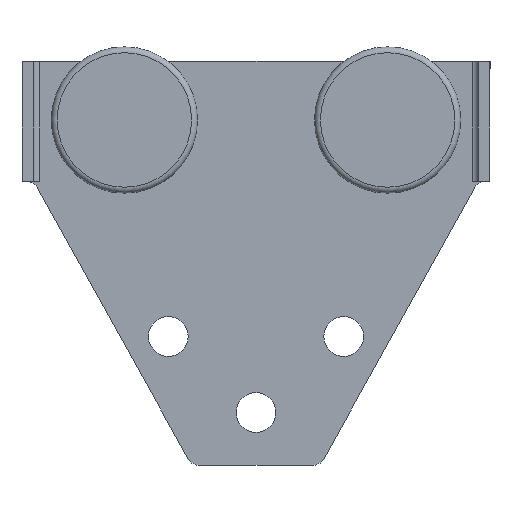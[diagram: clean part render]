
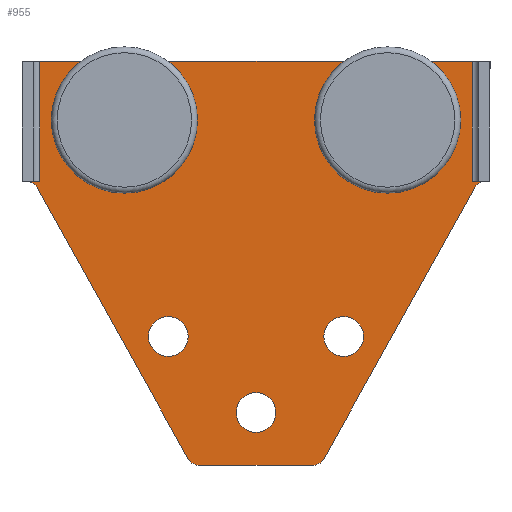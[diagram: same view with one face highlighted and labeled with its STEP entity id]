
A CAD part, left-side view. The second image highlights one B-rep face of the part: STEP entity #955.
In plain terms, the highlighted free-form (B-spline) face has degree [1, 1] with [2, 2] control points.
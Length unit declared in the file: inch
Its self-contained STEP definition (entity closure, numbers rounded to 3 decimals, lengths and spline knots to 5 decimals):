
#237=CARTESIAN_POINT('',(-0.15748,-0.34156,2.32283));
#238=VERTEX_POINT('',#237);
#239=CARTESIAN_POINT('',(-0.15748,-0.49904,2.32283));
#240=DIRECTION('',(-1.0,0.0,0.0));
#241=DIRECTION('',(0.0,1.0,0.0));
#242=AXIS2_PLACEMENT_3D('',#239,#240,#241);
#243=CIRCLE('',#242,0.15748);
#244=EDGE_CURVE('',#238,#238,#243,.T.);
#372=CARTESIAN_POINT('',(-0.15748,1.84348,2.71653));
#373=VERTEX_POINT('',#372);
#374=CARTESIAN_POINT('',(-0.15748,1.84348,1.90945));
#375=VERTEX_POINT('',#374);
#376=CARTESIAN_POINT('',(-0.15748,1.84348,2.71653));
#377=DIRECTION('',(0.0,0.0,-1.0));
#378=VECTOR('',#377,0.80708);
#379=LINE('',#376,#378);
#380=EDGE_CURVE('',#373,#375,#379,.T.);
#466=CARTESIAN_POINT('',(-0.15748,-1.0699,1.90945));
#467=VERTEX_POINT('',#466);
#468=CARTESIAN_POINT('',(-0.15748,-1.0699,2.71653));
#469=VERTEX_POINT('',#468);
#470=CARTESIAN_POINT('',(-0.15748,-1.0699,1.90945));
#471=DIRECTION('',(0.0,0.0,1.0));
#472=VECTOR('',#471,0.80709);
#473=LINE('',#470,#472);
#474=EDGE_CURVE('',#467,#469,#473,.T.);
#658=CARTESIAN_POINT('',(-0.15748,-1.15556,1.90945));
#659=VERTEX_POINT('',#658);
#660=CARTESIAN_POINT('',(-0.15748,-1.0699,1.90945));
#661=DIRECTION('',(0.0,-1.0,0.0));
#662=VECTOR('',#661,0.08565);
#663=LINE('',#660,#662);
#664=EDGE_CURVE('',#467,#659,#663,.T.);
#759=CARTESIAN_POINT('',(-0.15748,1.92913,1.90945));
#760=VERTEX_POINT('',#759);
#767=CARTESIAN_POINT('',(-0.15748,1.92913,1.90945));
#768=DIRECTION('',(0.0,-1.0,0.0));
#769=VECTOR('',#768,0.08565);
#770=LINE('',#767,#769);
#771=EDGE_CURVE('',#760,#375,#770,.T.);
#833=CARTESIAN_POINT('',(-0.15748,1.92913,2.71653));
#834=CARTESIAN_POINT('',(-0.15748,-1.15556,2.71653));
#835=CARTESIAN_POINT('',(-0.15748,1.92913,0.0));
#836=CARTESIAN_POINT('',(-0.15748,-1.15556,0.));
#837=B_SPLINE_SURFACE_WITH_KNOTS('',1,1,((#833,#835),(#834,#836)),.UNSPECIFIED.,.F.,.F.,.U.,(2,2),(2,2),(0.0,3.08469),(0.0,2.71653),.UNSPECIFIED.);
#838=ORIENTED_EDGE('',*,*,#380,.T.);
#839=ORIENTED_EDGE('',*,*,#771,.F.);
#840=CARTESIAN_POINT('',(-0.15748,1.86033,1.869));
#841=VERTEX_POINT('',#840);
#842=CARTESIAN_POINT('',(-0.15748,1.92913,1.83071));
#843=DIRECTION('',(1.0,0.0,0.0));
#844=DIRECTION('',(0.0,1.0,0.0));
#845=AXIS2_PLACEMENT_3D('',#842,#843,#844);
#846=CIRCLE('',#845,0.07874);
#847=EDGE_CURVE('',#760,#841,#846,.T.);
#848=ORIENTED_EDGE('',*,*,#847,.T.);
#849=CARTESIAN_POINT('',(-0.15748,0.84237,0.04044));
#850=VERTEX_POINT('',#849);
#851=CARTESIAN_POINT('',(-0.15748,1.86033,1.869));
#852=DIRECTION('',(0.,-0.486,-0.874));
#853=VECTOR('',#852,2.09282);
#854=LINE('',#851,#853);
#855=EDGE_CURVE('',#841,#850,#854,.T.);
#856=ORIENTED_EDGE('',*,*,#855,.T.);
#857=CARTESIAN_POINT('',(-0.15748,0.77357,0.0));
#858=VERTEX_POINT('',#857);
#859=CARTESIAN_POINT('',(-0.15748,0.77357,0.07874));
#860=DIRECTION('',(-1.0,0.0,0.0));
#861=DIRECTION('',(0.0,1.0,0.0));
#862=AXIS2_PLACEMENT_3D('',#859,#860,#861);
#863=CIRCLE('',#862,0.07874);
#864=EDGE_CURVE('',#850,#858,#863,.T.);
#865=ORIENTED_EDGE('',*,*,#864,.T.);
#866=CARTESIAN_POINT('',(-0.15748,0.0,0.0));
#867=VERTEX_POINT('',#866);
#868=CARTESIAN_POINT('',(-0.15748,0.77357,0.));
#869=DIRECTION('',(0.0,-1.0,0.0));
#870=VECTOR('',#869,0.77357);
#871=LINE('',#868,#870);
#872=EDGE_CURVE('',#858,#867,#871,.T.);
#873=ORIENTED_EDGE('',*,*,#872,.T.);
#874=CARTESIAN_POINT('',(-0.15748,-0.0688,0.04044));
#875=VERTEX_POINT('',#874);
#876=CARTESIAN_POINT('',(-0.15748,0.0,0.07874));
#877=DIRECTION('',(-1.0,0.0,0.0));
#878=DIRECTION('',(0.0,1.0,0.0));
#879=AXIS2_PLACEMENT_3D('',#876,#877,#878);
#880=CIRCLE('',#879,0.07874);
#881=EDGE_CURVE('',#867,#875,#880,.T.);
#882=ORIENTED_EDGE('',*,*,#881,.T.);
#883=CARTESIAN_POINT('',(-0.15748,-1.08676,1.869));
#884=VERTEX_POINT('',#883);
#885=CARTESIAN_POINT('',(-0.15748,-0.0688,0.04044));
#886=DIRECTION('',(0.,-0.486,0.874));
#887=VECTOR('',#886,2.09282);
#888=LINE('',#885,#887);
#889=EDGE_CURVE('',#875,#884,#888,.T.);
#890=ORIENTED_EDGE('',*,*,#889,.T.);
#891=CARTESIAN_POINT('',(-0.15748,-1.15556,1.83071));
#892=DIRECTION('',(1.0,0.0,0.0));
#893=DIRECTION('',(0.0,1.0,0.0));
#894=AXIS2_PLACEMENT_3D('',#891,#892,#893);
#895=CIRCLE('',#894,0.07874);
#896=EDGE_CURVE('',#884,#659,#895,.T.);
#897=ORIENTED_EDGE('',*,*,#896,.T.);
#898=ORIENTED_EDGE('',*,*,#664,.F.);
#899=ORIENTED_EDGE('',*,*,#474,.T.);
#900=CARTESIAN_POINT('',(-0.15748,-1.0699,2.71653));
#901=DIRECTION('',(0.0,1.0,0.0));
#902=VECTOR('',#901,2.91338);
#903=LINE('',#900,#902);
#904=EDGE_CURVE('',#469,#373,#903,.T.);
#905=ORIENTED_EDGE('',*,*,#904,.T.);
#906=EDGE_LOOP('',(#838,#839,#848,#856,#865,#873,#882,#890,#897,#898,#899,#905));
#907=FACE_OUTER_BOUND('',#906,.T.);
#908=CARTESIAN_POINT('',(-0.15748,1.11119,0.86614));
#909=VERTEX_POINT('',#908);
#910=CARTESIAN_POINT('',(-0.15748,0.97734,0.86614));
#911=DIRECTION('',(-1.0,0.0,0.0));
#912=DIRECTION('',(0.0,1.0,0.0));
#913=AXIS2_PLACEMENT_3D('',#910,#911,#912);
#914=CIRCLE('',#913,0.13386);
#915=EDGE_CURVE('',#909,#909,#914,.T.);
#916=ORIENTED_EDGE('',*,*,#915,.F.);
#917=EDGE_LOOP('',(#916));
#918=FACE_BOUND('',#917,.T.);
#919=CARTESIAN_POINT('',(-0.15748,0.52064,0.35433));
#920=VERTEX_POINT('',#919);
#921=CARTESIAN_POINT('',(-0.15748,0.38679,0.35433));
#922=DIRECTION('',(-1.0,0.0,0.0));
#923=DIRECTION('',(0.0,1.0,0.0));
#924=AXIS2_PLACEMENT_3D('',#921,#922,#923);
#925=CIRCLE('',#924,0.13386);
#926=EDGE_CURVE('',#920,#920,#925,.T.);
#927=ORIENTED_EDGE('',*,*,#926,.F.);
#928=EDGE_LOOP('',(#927));
#929=FACE_BOUND('',#928,.T.);
#930=CARTESIAN_POINT('',(-0.15748,-0.06991,0.86614));
#931=VERTEX_POINT('',#930);
#932=CARTESIAN_POINT('',(-0.15748,-0.20376,0.86614));
#933=DIRECTION('',(-1.0,0.0,0.0));
#934=DIRECTION('',(0.0,1.0,0.0));
#935=AXIS2_PLACEMENT_3D('',#932,#933,#934);
#936=CIRCLE('',#935,0.13386);
#937=EDGE_CURVE('',#931,#931,#936,.T.);
#938=ORIENTED_EDGE('',*,*,#937,.F.);
#939=EDGE_LOOP('',(#938));
#940=FACE_BOUND('',#939,.T.);
#941=CARTESIAN_POINT('',(-0.15748,1.43009,2.32283));
#942=VERTEX_POINT('',#941);
#943=CARTESIAN_POINT('',(-0.15748,1.27261,2.32283));
#944=DIRECTION('',(-1.0,0.0,0.0));
#945=DIRECTION('',(0.0,1.0,0.0));
#946=AXIS2_PLACEMENT_3D('',#943,#944,#945);
#947=CIRCLE('',#946,0.15748);
#948=EDGE_CURVE('',#942,#942,#947,.T.);
#949=ORIENTED_EDGE('',*,*,#948,.F.);
#950=EDGE_LOOP('',(#949));
#951=FACE_BOUND('',#950,.T.);
#952=ORIENTED_EDGE('',*,*,#244,.F.);
#953=EDGE_LOOP('',(#952));
#954=FACE_BOUND('',#953,.T.);
#955=ADVANCED_FACE('',(#907,#918,#929,#940,#951,#954),#837,.F.);
